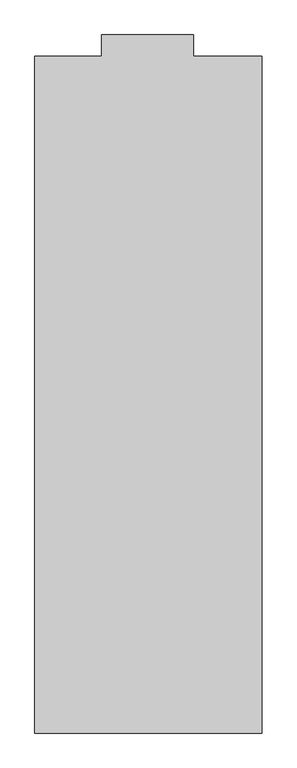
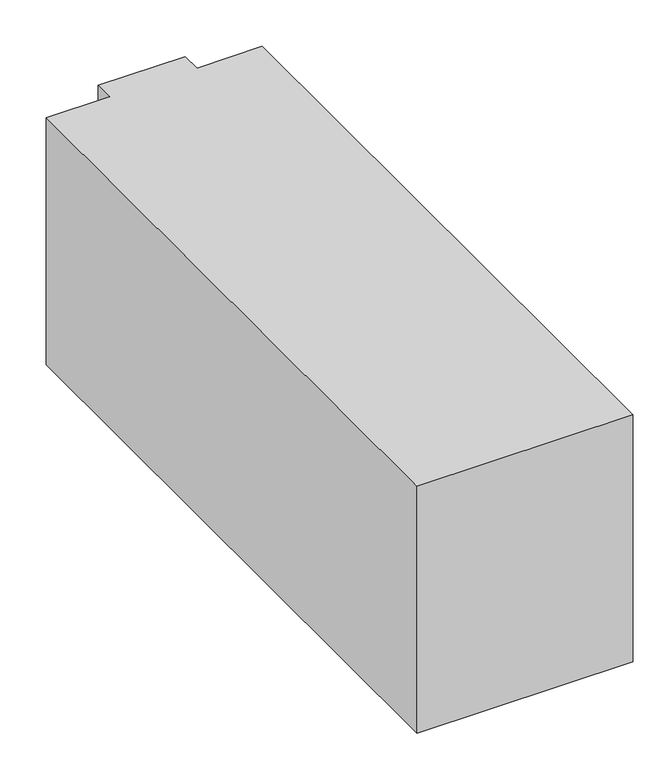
"""IFC4 building model written with IfcOpenShell, lengths in millimetres: proxy geometry."""

from ifc_helpers import new_model, si_unit, origin, origin_with_axes, place, context, project, spatial, polyline, outline, extrude, source, transform, mapped, element, save


def generic_models_61546761(model_context):
    return source(origin(), model_context, "Body", "SweptSolid", [
        extrude(outline(polyline([(-96644.9987767, -17499.999999), (-98794.9987767, -17499.999999), (-98794.9987767, -11099.999999), (-98164.9987767, -11099.999999), (-98164.9987767, -10899.999999), (-97294.9987767, -10899.999999), (-97294.9987767, -11099.999999), (-96644.9987767, -11099.999999), (-96644.9987767, -17499.999999)])), origin_with_axes(), (0.0, 0.0, 1.0), 2600.0),
    ])


if __name__ == "__main__":
    model = new_model("IFC4")
    model_context = context("Model", 3, world=origin())
    ifc_project = project(units=[si_unit("LENGTHUNIT", "METRE", prefix="MILLI")], contexts=[model_context])
    site = spatial("IfcSite", under=ifc_project)
    building = spatial("IfcBuilding", under=site)
    placement = place(None, origin())
    generic_models_shape = generic_models_61546761(model_context)
    element("IfcBuildingElementProxy", 1, Name="Generic Models", at=placement, inside=building, context=model_context, shape_type="MappedRepresentation", body=[
        mapped(generic_models_shape, transform((0.0, 0.0, 0.0), x_axis=(1.0, 0.0, 0.0), y_axis=(0.0, 1.0, 0.0), z_axis=(0.0, 0.0, 1.0))),
    ])
    save(model, "model.ifc")
